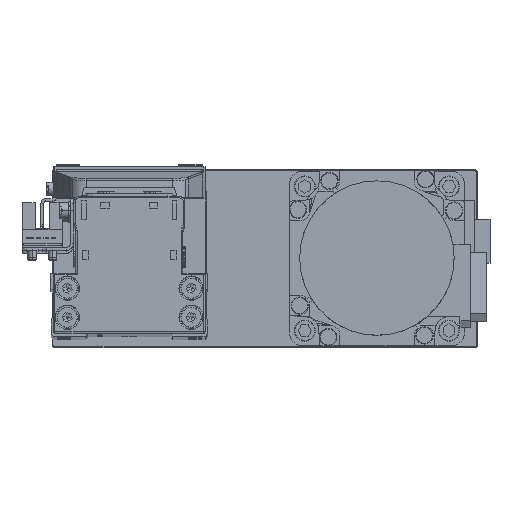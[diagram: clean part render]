
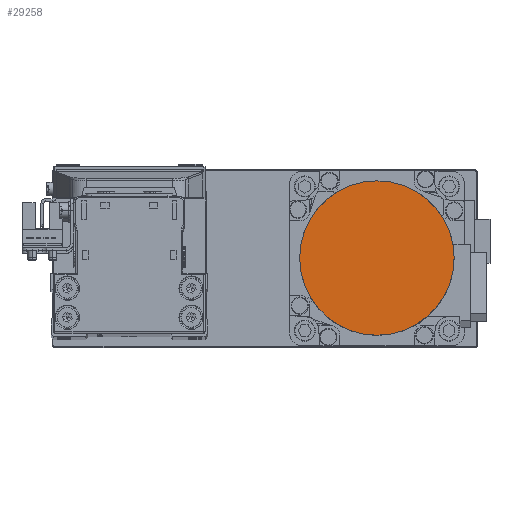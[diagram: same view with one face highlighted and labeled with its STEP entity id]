
A CAD part, top view. The second image highlights one B-rep face of the part: STEP entity #29258.
In plain terms, the highlighted planar face has unit normal (0, 0, 1) as drawn and (0, 0, -1) by its records, which use the part's own axes.
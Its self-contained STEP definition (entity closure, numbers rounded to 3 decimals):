
#4661 = AXIS2_PLACEMENT_3D ( 'NONE', #11995, #24803, #37600 ) ;
#6778 = AXIS2_PLACEMENT_3D ( 'NONE', #25275, #38065, #9319 ) ;
#7552 = DIRECTION ( 'NONE',  ( 1., 0., 0. ) ) ;
#9319 = DIRECTION ( 'NONE',  ( -1., 0., 0. ) ) ;
#10708 = PLANE ( 'NONE',  #14608 ) ;
#10775 = EDGE_CURVE ( 'NONE', #10785, #22132, #24870, .T. ) ;
#10785 = VERTEX_POINT ( 'NONE', #22113 ) ;
#11995 = CARTESIAN_POINT ( 'NONE',  ( 0., 0., -109.7 ) ) ;
#14608 = AXIS2_PLACEMENT_3D ( 'NONE', #23502, #36303, #7552 ) ;
#18390 = EDGE_CURVE ( 'NONE', #22132, #10785, #40850, .T. ) ;
#22113 = CARTESIAN_POINT ( 'NONE',  ( -26.5, 0., -109.7 ) ) ;
#22132 = VERTEX_POINT ( 'NONE', #26124 ) ;
#23502 = CARTESIAN_POINT ( 'NONE',  ( 0., 0., -109.7 ) ) ;
#24803 = DIRECTION ( 'NONE',  ( 0., 0., 1. ) ) ;
#24870 = CIRCLE ( 'NONE', #6778, 26.5 ) ;
#25275 = CARTESIAN_POINT ( 'NONE',  ( 0., 0., -109.7 ) ) ;
#26124 = CARTESIAN_POINT ( 'NONE',  ( 26.5, 0., -109.7 ) ) ;
#29258 = ADVANCED_FACE ( 'NONE', ( #39445 ), #10708, .F. ) ;
#31680 = ORIENTED_EDGE ( 'NONE', *, *, #10775, .F. ) ;
#32568 = ORIENTED_EDGE ( 'NONE', *, *, #18390, .F. ) ;
#34506 = EDGE_LOOP ( 'NONE', ( #31680, #32568 ) ) ;
#36303 = DIRECTION ( 'NONE',  ( 0., 0., 1. ) ) ;
#37600 = DIRECTION ( 'NONE',  ( 1., 0., 0. ) ) ;
#38065 = DIRECTION ( 'NONE',  ( 0., 0., 1. ) ) ;
#39445 = FACE_OUTER_BOUND ( 'NONE', #34506, .T. ) ;
#40850 = CIRCLE ( 'NONE', #4661, 26.5 ) ;
